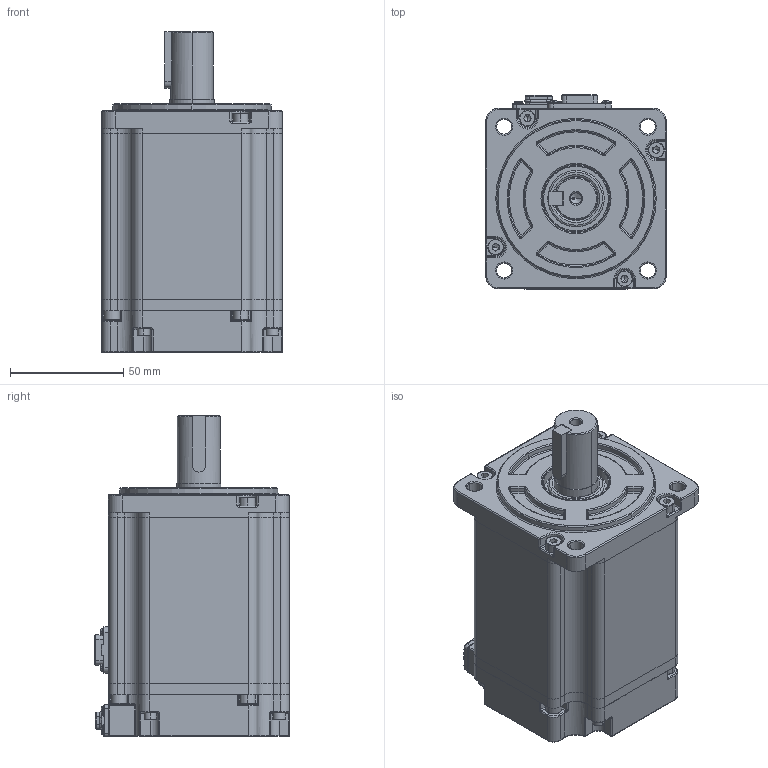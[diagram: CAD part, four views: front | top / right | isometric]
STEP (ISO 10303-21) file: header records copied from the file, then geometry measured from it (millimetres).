
FILE_DESCRIPTION (( 'STEP AP214' ), '1' );
FILE_NAME ('V7E-L08A-R7530-D1.STEP', '2021-08-09T03:30:11', ( '' ), ( '' ), 'SwSTEP 2.0', 'SolidWorks 2014', '' );
FILE_SCHEMA (( 'AUTOMOTIVE_DESIGN' ));
Length unit declared in the file: millimetre
Products named in the file (14): V7E-L08A-R7530-D1; 普通型 平键   C 6x6x25 带M3起键螺钉孔; 80#陔粣-750W-拸价陬; 750w儂褲; 蚐猾 D00B999YF5-TC 20-30-5-1; 囀鞠褒 ISO 4762 M4 x12--20201221; SC40陔晤鎢ん瑤脣釱sc-mc7p-a6-zhichuxianchazuo; 80#陔綴傷裔; 80#陔晤鎢ん欶; 60-80蚳蚚雄薯脣釱-sc-mc6p-ac-goubanchazuo; 80#陔晤鎢ん欶躇猾菜; 80#陔ヶ傷裔; 750W隅赽郪璃; 囀鞠褒 ISO 4762 M3 x 12 --- 12N
Assembly tree (23 placements, depth 3):
  V7E-L08A-R7530-D1
    750W隅赽郪璃
      750w儂褲
      80#陔ヶ傷裔
      60-80蚳蚚雄薯脣釱-sc-mc6p-ac-goubanchazuo
    80#陔綴傷裔
    80#陔晤鎢ん欶
    SC40陔晤鎢ん瑤脣釱sc-mc7p-a6-zhichuxianchazuo
    80#陔晤鎢ん欶躇猾菜
    蚐猾 D00B999YF5-TC 20-30-5-1
    80#陔粣-750W-拸价陬
    囀鞠褒 ISO 4762 M4 x12--20201221  x8
    普通型 平键   C 6x6x25 带M3起键螺钉孔
    囀鞠褒 ISO 4762 M3 x 12 --- 12N  x4
Bounding box: 80 x 86.1 x 142 mm (x, y, z)
Volume: 244230.1 mm3; surface area: 127381.8 mm2
Topology: 31 solids, 31 shells, 4142 faces, 10270 edges, 6232 vertices
Faces by surface type: plane 1874, cylinder 1385, bspline 348, cone 223, torus 214, sphere 98
Entity records: 139825 total; most frequent: CARTESIAN_POINT 47568, ORIENTED_EDGE 19100, DIRECTION 18689, EDGE_CURVE 9550, AXIS2_PLACEMENT_3D 6492, VERTEX_POINT 5878, LINE 5705, VECTOR 5705
